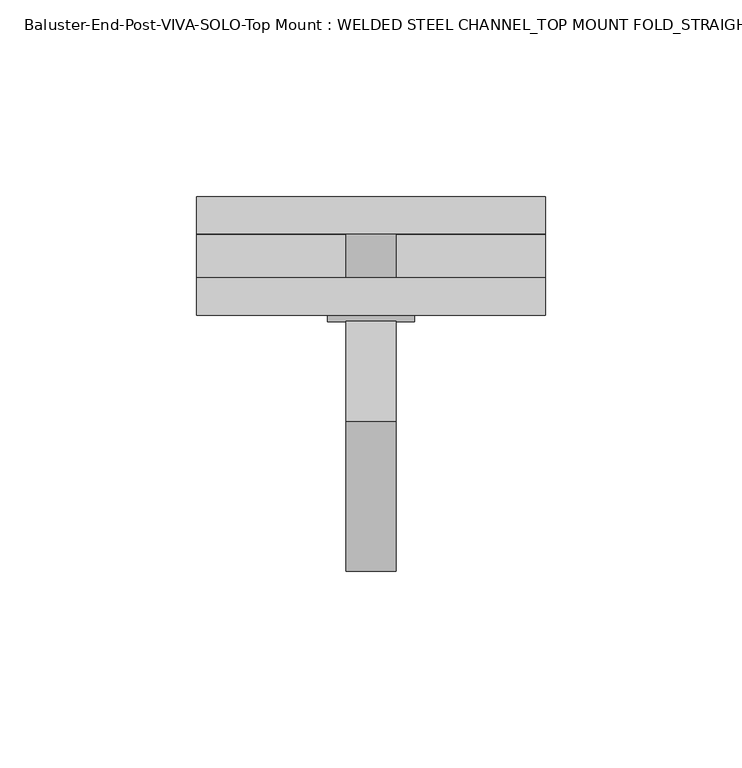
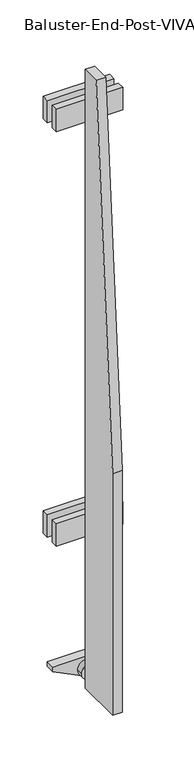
"""IFC4 building model written with IfcOpenShell, lengths in millimetres: proxy geometry, Baluster-End-Post-VIVA-SOLO-Top Mount : WELDED STEEL CHANNEL_TOP MOUNT FOLD_STRAIGHT."""

from ifc_helpers import new_model, si_unit, point, frame, frame_2d, origin, place, context, project, spatial, polyline, circle_curve, trimmed, segment, composite_curve, outline, extrude, source, transform, mapped, element, save


def baluster_end_post_viva_solo_top_mount_welded_steel_channel_1b436ed5(model_context):
    return source(origin(), model_context, "Body", "SweptSolid", [
        extrude(outline(polyline([(-52.1175389, 914.8205071), (-52.1175389, 39.165025), (-115.6175389, 39.165025), (-115.6175389, 381.4205071), (-77.5175389, 914.8205071), (-52.1175389, 914.8205071)])), frame((-158.75, 0.0, 0.0), z_axis=(1.0, 0.0, 0.0), x_axis=(0.0, 1.0, 0.0)), (0.0, 0.0, 1.0), 12.7),
        extrude(outline(composite_curve([segment(trimmed(circle_curve(frame_2d((268.5208758, -152.4)), 6.35), [point((268.5208758, -146.05))], [point((268.5208758, -158.75))], False, "CARTESIAN"), True, "CONTINUOUS"), segment(trimmed(circle_curve(frame_2d((268.5208758, -152.4)), 6.35), [point((268.5208758, -158.75))], [point((268.5208758, -146.05))], False, "CARTESIAN"), True, "CONTINUOUS")], self_intersect=False)), frame((0.0, -42.5925389, 0.0), z_axis=(0.0, 1.0, 0.0), x_axis=(0.0, 0.0, 1.0)), (0.0, 0.0, 1.0), 12.7),
        extrude(outline(composite_curve([segment(trimmed(circle_curve(frame_2d((854.776764, -152.4)), 6.35), [point((854.776764, -146.05))], [point((854.776764, -158.75))], False, "CARTESIAN"), True, "CONTINUOUS"), segment(trimmed(circle_curve(frame_2d((854.776764, -152.4)), 6.35), [point((854.776764, -158.75))], [point((854.776764, -146.05))], False, "CARTESIAN"), True, "CONTINUOUS")], self_intersect=False)), frame((0.0, -42.5925389, 0.0), z_axis=(0.0, 1.0, 0.0), x_axis=(0.0, 0.0, 1.0)), (0.0, 0.0, 1.0), 12.7),
        extrude(outline(composite_curve([segment(trimmed(circle_curve(frame_2d((60.8777263, -152.4)), 11.1125), [point((60.8777263, -141.2875))], [point((60.8777263, -163.5125))], False, "CARTESIAN"), True, "CONTINUOUS"), segment(trimmed(circle_curve(frame_2d((60.8777263, -152.4)), 11.1125), [point((60.8777263, -163.5125))], [point((60.8777263, -141.2875))], False, "CARTESIAN"), True, "CONTINUOUS")], self_intersect=False)), frame((0.0, -52.1175389, 0.0), z_axis=(0.0, 1.0, 0.0), x_axis=(0.0, 0.0, 1.0)), (0.0, 0.0, 1.0), 25.4),
        extrude(outline(polyline([(-196.85, -20.3675389), (-107.95, -20.3675389), (-107.95, -29.8925389), (-196.85, -29.8925389), (-196.85, -20.3675389)])), frame((0.0, 0.0, 838.7824344), z_axis=(0.0, 0.0, 1.0), x_axis=(1.0, 0.0, 0.0)), (0.0, 0.0, 1.0), 31.75),
        extrude(outline(polyline([(-196.85, -20.3675389), (-107.95, -20.3675389), (-107.95, -29.8925389), (-196.85, -29.8925389), (-196.85, -20.3675389)])), frame((0.0, 0.0, 252.4484609), z_axis=(0.0, 0.0, 1.0), x_axis=(1.0, 0.0, 0.0)), (0.0, 0.0, 1.0), 31.75),
        extrude(outline(polyline([(70.3302675, -107.95), (76.6802675, -107.95), (76.6802675, -196.85), (70.3302675, -196.85), (48.4156188, -152.4), (70.3302675, -107.95)])), frame((0.0, -42.5925389, 0.0), z_axis=(0.0, 1.0, 0.0), x_axis=(0.0, 0.0, 1.0)), (0.0, 0.0, 1.0), 12.7),
        extrude(outline(polyline([(-196.85, -40.984781), (-107.95, -40.984781), (-107.95, -50.509781), (-196.85, -50.509781), (-196.85, -40.984781)])), frame((0.0, 0.0, 838.7824344), z_axis=(0.0, 0.0, 1.0), x_axis=(1.0, 0.0, 0.0)), (0.0, 0.0, 1.0), 31.75),
        extrude(outline(polyline([(-196.85, -40.984781), (-107.95, -40.984781), (-107.95, -50.509781), (-196.85, -50.509781), (-196.85, -40.984781)])), frame((0.0, 0.0, 252.4484609), z_axis=(0.0, 0.0, 1.0), x_axis=(1.0, 0.0, 0.0)), (0.0, 0.0, 1.0), 31.75),
    ])


if __name__ == "__main__":
    model = new_model("IFC4")
    model_context = context("Model", 3, world=origin())
    ifc_project = project(units=[si_unit("LENGTHUNIT", "METRE", prefix="MILLI")], contexts=[model_context])
    site = spatial("IfcSite", under=ifc_project)
    building = spatial("IfcBuilding", under=site)
    placement = place(None, origin())
    baluster_end_post_viva_solo_top_mount_welded_steel_channel_shape = baluster_end_post_viva_solo_top_mount_welded_steel_channel_1b436ed5(model_context)
    element("IfcBuildingElementProxy", 1, Name="Baluster-End-Post-VIVA-SOLO-Top Mount : WELDED STEEL CHANNEL_TOP MOUNT FOLD_STRAIGHT", ObjectType="Baluster-End-Post-VIVA-SOLO-Top Mount : WELDED STEEL CHANNEL_TOP MOUNT FOLD_STRAIGHT", at=placement, inside=building, context=model_context, shape_type="MappedRepresentation", body=[
        mapped(baluster_end_post_viva_solo_top_mount_welded_steel_channel_shape, transform((0.0, 0.0, 0.0), x_axis=(1.0, 0.0, 0.0), y_axis=(0.0, 1.0, 0.0), z_axis=(0.0, 0.0, 1.0))),
    ])
    save(model, "model.ifc")
